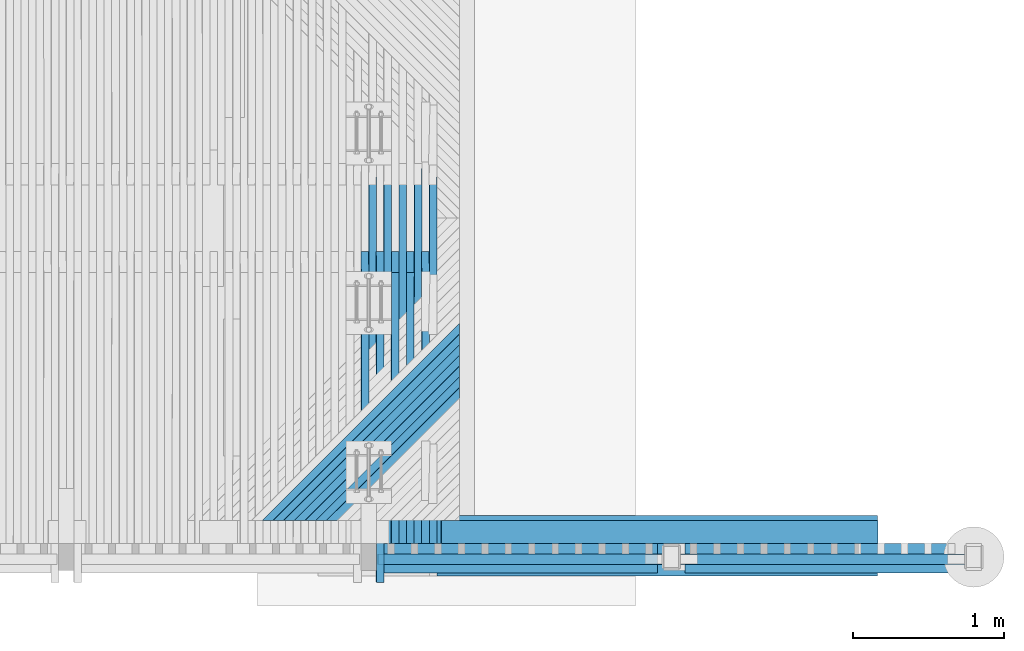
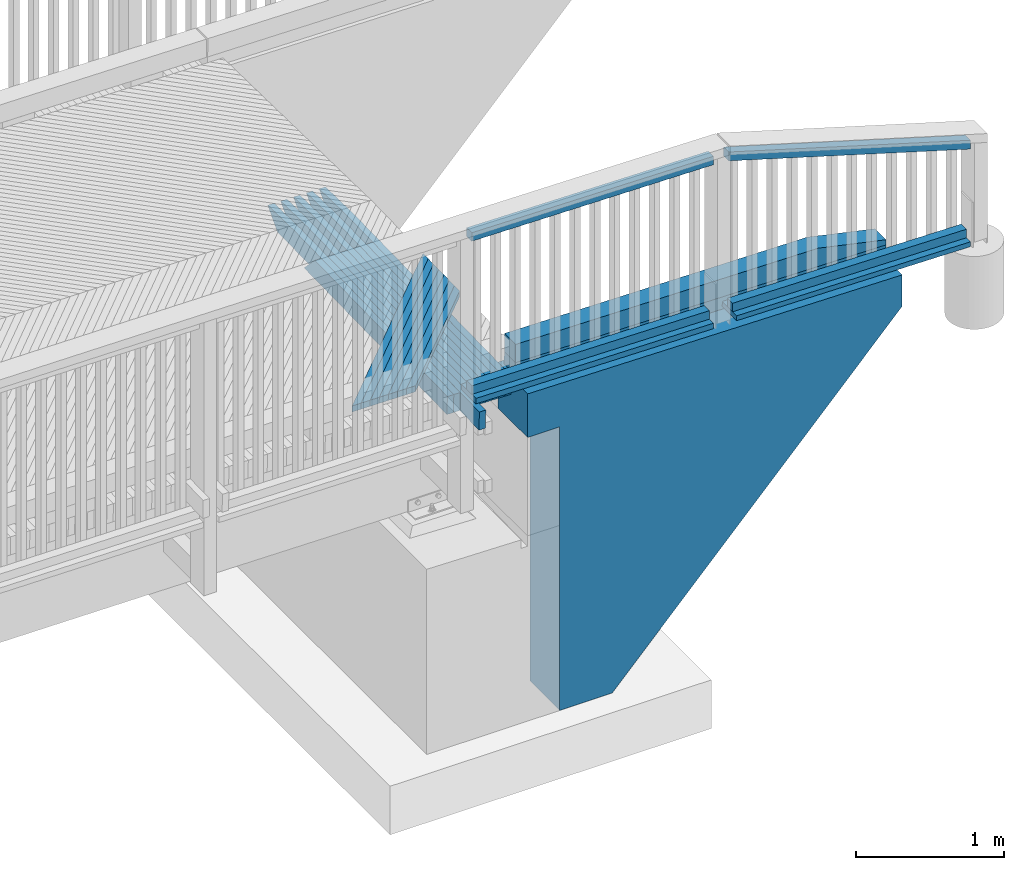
# One storey, part 44 of 52: 26 beams.
"""IFC2X3 building model written with IfcOpenShell, lengths in millimetres."""

from ifc_helpers import new_model, si_unit, frame, origin_with_axes, place, context, subcontext, project, spatial, faceted_brep, material, type_object, element, save


model = new_model("IFC2X3")

# Units and contexts
model_context = context("Model", 3, precision=1e-05, world=origin_with_axes())
body_context = subcontext(model_context, "Body", "Model", "MODEL_VIEW")
ifc_project = project(units=[si_unit("LENGTHUNIT", "METRE", prefix="MILLI"), si_unit("AREAUNIT", "SQUARE_METRE"), si_unit("VOLUMEUNIT", "CUBIC_METRE"), si_unit("MASSUNIT", "GRAM", prefix="KILO"), si_unit("TIMEUNIT", "SECOND"), si_unit("PLANEANGLEUNIT", "RADIAN"), si_unit("SOLIDANGLEUNIT", "STERADIAN"), si_unit("THERMODYNAMICTEMPERATUREUNIT", "DEGREE_CELSIUS"), si_unit("LUMINOUSINTENSITYUNIT", "LUMEN")], contexts=[model_context])

# Site, building, storey
site_placement = place(None, origin_with_axes())
site = spatial("IfcSite", under=ifc_project, at=site_placement, Name="Undefined", CompositionType="ELEMENT")
building_placement = place(site_placement, origin_with_axes())
building = spatial("IfcBuilding", under=site, at=building_placement, Name="Undefined", CompositionType="ELEMENT")
storey_placement = place(building_placement, origin_with_axes())
storey = spatial("IfcBuildingStorey", under=building, at=storey_placement, Name="Undefined", CompositionType="ELEMENT", Elevation=0.0)

# Beams
ifc_material_1 = material(Name="TIMBER/Timber_Undefined")
beam_type_1 = type_object("IfcBeamType", Name="150*100", PredefinedType="NOTDEFINED")
beam_1_placement = place(storey_placement, frame((19364.0305880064, 289.999999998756, 3118.6757290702), z_axis=(0.0, -1.0, 0.0), x_axis=(-0.999904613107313, 0.0, 0.0138117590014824)))
element("IfcBeam", 1, at=beam_1_placement, inside=storey, type_object=beam_type_1, material=ifc_material_1, Name="TÖRMÄYSJOHDE", ObjectType="150*100", context=body_context, shape_type="Brep", body=[
    faceted_brep([(-3.63797880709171e-12, 50.0, -75.0), (-3.63797880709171e-12, 50.0, 75.0), (2885.27521749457, 50.0, 75.0), (2885.27521749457, 50.0, -75.0), (0.0, -49.9999999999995, 75.0), (2885.27521749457, -49.9999999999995, 75.0), (0.0, -49.9999999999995, -75.0), (2885.27521749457, -49.9999999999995, -75.0)], [[[0, 1, 2, 3]], [[1, 4, 5, 2]], [[4, 6, 7, 5]], [[6, 0, 3, 7]], [[5, 7, 3, 2]], [[6, 4, 1, 0]]]),
])
beam_type_2 = type_object("IfcBeamType", Name="150*150", PredefinedType="NOTDEFINED")
beam_2_placement = place(storey_placement, frame((19366.0358819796, 289.999999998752, 3243.66334439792), z_axis=(0.0, -1.0, 0.0), x_axis=(-0.999904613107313, 0.0, 0.0138117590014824)))
element("IfcBeam", 2, at=beam_2_placement, inside=storey, type_object=beam_type_2, material=ifc_material_1, Name="TÖRMÄYSJOHDE", ObjectType="150*150", context=body_context, shape_type="Brep", body=[
    faceted_brep([(2885.27521749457, -74.9999999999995, 75.0), (2885.27521749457, -74.9999999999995, -75.0), (2885.27521749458, 75.0, -75.0), (2885.27521749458, 75.0, 75.0), (3.63797880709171e-12, 75.0000000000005, -75.0), (3.63797880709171e-12, 75.0000000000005, 75.0), (3.63797880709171e-12, 33.1222400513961, -75.0), (3.63797880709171e-12, 33.1222400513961, 75.0), (529.511118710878, -75.0, 75.0), (529.511118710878, -75.0, -75.0)], [[[0, 1, 2, 3]], [[4, 5, 3, 2]], [[5, 4, 6, 7]], [[0, 3, 5, 7, 8]], [[1, 0, 8, 9]], [[4, 2, 1, 9, 6]], [[8, 7, 6, 9]]]),
])
ifc_material_2 = material(Name="CONCRETE/Concrete_Undefined")
beam_type_3 = type_object("IfcBeamType", Name="2800*400", PredefinedType="NOTDEFINED")
beam_3_placement = place(storey_placement, frame((16430.3400332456, 200.0, 1712.66804762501), z_axis=(0.0140428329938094, 0.0, 0.999901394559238), x_axis=(0.999901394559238, 0.0, -0.0140428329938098)))
element("IfcBeam", 3, at=beam_3_placement, inside=storey, type_object=beam_type_3, material=ifc_material_2, Name="SIIPIMUURI", ObjectType="2800*400", context=body_context, shape_type="Brep", body=[
    faceted_brep([(5.63100911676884e-07, 200.0, 1400.0), (0.280884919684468, -200.000000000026, 1380.0), (2915.56834818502, -200.0, 1380.0), (2915.28746382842, 200.0, 1400.0), (270.457242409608, 199.999999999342, -54.8754727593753), (270.457242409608, -200.0, -54.8754727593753), (255.29098277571, -200.0, 1025.01803336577), (255.29098277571, 199.999999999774, 1025.01803336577), (288.066954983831, 200.0, -1308.75182153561), (288.066954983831, -200.0, -1308.75182153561), (697.173583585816, 200.0, -1303.00623892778), (697.173583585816, -200.0, -1303.00623892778), (2919.22031514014, 200.0, 1119.96651154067), (2919.22031514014, -200.0, 1119.96651154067), (5.31563413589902, -200.0, 1021.50732511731), (5.31563413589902, 199.999999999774, 1021.50732511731)], [[[0, 1, 2, 3]], [[4, 5, 6, 7]], [[8, 9, 5, 4]], [[10, 11, 9, 8]], [[12, 13, 11, 10]], [[13, 12, 3, 2]], [[14, 6, 5, 9, 11, 13, 2, 1]], [[7, 6, 14, 15]], [[3, 12, 10, 8, 4, 7, 15, 0]], [[15, 14, 1, 0]]]),
])
beam_type_4 = type_object("IfcBeamType", Name="70*70", PredefinedType="NOTDEFINED")
beam_4_placement = place(storey_placement, frame((19930.4049244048, 110.009954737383, 3879.53617466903), z_axis=(0.0, -1.0, 0.0), x_axis=(-0.958203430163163, 0.0, 0.286087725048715)))
element("IfcBeam", 4, at=beam_4_placement, inside=storey, type_object=beam_type_4, material=ifc_material_1, Name="BEAM", ObjectType="70*70", context=body_context, shape_type="Brep", body=[
    faceted_brep([(-20.4634471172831, 34.9999999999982, -35.0), (-20.4634471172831, 34.9999999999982, 35.0), (1941.54163533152, 34.9999999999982, 35.0), (1941.54163533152, 34.9999999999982, -35.0), (0.436228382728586, -35.0000000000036, 35.0), (1962.44131083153, -35.0000000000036, 35.0), (0.436228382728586, -35.0000000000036, -35.0), (1962.44131083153, -35.0000000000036, -35.0)], [[[0, 1, 2, 3]], [[1, 4, 5, 2]], [[4, 6, 7, 5]], [[6, 0, 3, 7]], [[5, 7, 3, 2]], [[6, 4, 1, 0]]]),
])
beam_5_placement = place(storey_placement, frame((19909.4703719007, 110.00997004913, 3156.34116342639), z_axis=(0.0, -1.0, 0.0), x_axis=(-0.999883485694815, 0.0, 0.0152648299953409)))
element("IfcBeam", 5, at=beam_5_placement, inside=storey, type_object=beam_type_4, material=ifc_material_1, Name="BEAM", ObjectType="70*70", context=body_context, shape_type="Brep", body=[
    faceted_brep([(-3.63797880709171e-12, 35.0000000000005, -35.0), (-3.63797880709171e-12, 35.0000000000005, 35.0), (1820.22135781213, 35.0, 35.0), (1820.22135781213, 35.0, -35.0), (-3.63797880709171e-12, -34.9999999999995, 35.0), (1820.22135781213, -34.9999999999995, 35.0), (-3.63797880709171e-12, -34.9999999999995, -35.0), (1820.22135781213, -34.9999999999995, -35.0)], [[[0, 1, 2, 3]], [[1, 4, 5, 2]], [[4, 6, 7, 5]], [[6, 0, 3, 7]], [[5, 7, 3, 2]], [[6, 4, 1, 0]]]),
])
beam_6_placement = place(storey_placement, frame((17909.4703719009, 110.00997004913, 3186.87116342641), z_axis=(0.0, -1.0, 0.0), x_axis=(-0.999883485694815, 0.0, 0.0152648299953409)))
element("IfcBeam", 6, at=beam_6_placement, inside=storey, type_object=beam_type_4, material=ifc_material_1, Name="BEAM", ObjectType="70*70", context=body_context, shape_type="Brep", body=[
    faceted_brep([(-3.63797880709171e-12, 35.0000000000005, -35.0), (-3.63797880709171e-12, 35.0000000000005, 35.0), (1850.22135781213, 34.9999999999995, 35.0), (1850.22135781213, 34.9999999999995, -35.0), (-3.63797880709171e-12, -34.9999999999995, 35.0), (1850.22135781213, -35.0, 35.0), (-3.63797880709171e-12, -34.9999999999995, -35.0), (1850.22135781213, -35.0, -35.0)], [[[0, 1, 2, 3]], [[1, 4, 5, 2]], [[4, 6, 7, 5]], [[6, 0, 3, 7]], [[5, 7, 3, 2]], [[6, 4, 1, 0]]]),
])
beam_7_placement = place(storey_placement, frame((17939.4668764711, 110.009970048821, 4446.41321852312), z_axis=(0.0, -1.0, 0.0), x_axis=(-0.999883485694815, 0.0, 0.0152648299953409)))
element("IfcBeam", 7, at=beam_7_placement, inside=storey, type_object=beam_type_4, material=ifc_material_1, Name="BEAM", ObjectType="70*70", context=body_context, shape_type="Brep", body=[
    faceted_brep([(-3.63797880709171e-12, 35.0000000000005, -35.0), (-3.63797880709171e-12, 35.0000000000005, 35.0), (1880.22135781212, 35.0000000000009, 35.0), (1880.22135781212, 35.0000000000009, -35.0), (-3.63797880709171e-12, -34.9999999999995, 35.0), (1880.22135781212, -35.0, 35.0), (-3.63797880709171e-12, -34.9999999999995, -35.0), (1880.22135781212, -35.0, -35.0)], [[[0, 1, 2, 3]], [[1, 4, 5, 2]], [[4, 6, 7, 5]], [[6, 0, 3, 7]], [[5, 7, 3, 2]], [[6, 4, 1, 0]]]),
])
beam_type_5 = type_object("IfcBeamType", Name="195*40", PredefinedType="NOTDEFINED")
beam_8_placement = place(storey_placement, frame((19909.6993443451, 117.50997004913, 3101.33941571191), z_axis=(0.0, -1.0, 0.0), x_axis=(-0.999883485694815, 0.0, 0.0152648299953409)))
element("IfcBeam", 8, at=beam_8_placement, inside=storey, type_object=beam_type_5, material=ifc_material_1, Name="BEAM", ObjectType="195*40", context=body_context, shape_type="Brep", body=[
    faceted_brep([(0.0, 20.0, -97.5), (0.0, 20.0, 97.5), (1820.22135781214, 20.0, 97.5), (1820.22135781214, 20.0, -97.5), (3.63797880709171e-12, -20.0, 97.5), (1820.22135781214, -20.0, 97.5), (3.63797880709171e-12, -20.0, -97.5), (1820.22135781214, -20.0, -97.5)], [[[0, 1, 2, 3]], [[1, 4, 5, 2]], [[4, 6, 7, 5]], [[6, 0, 3, 7]], [[5, 7, 3, 2]], [[6, 4, 1, 0]]]),
])
beam_type_6 = type_object("IfcBeamType", Name="50*50", PredefinedType="NOTDEFINED")
beam_9_placement = place(storey_placement, frame((17753.8756532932, 2364.50010032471, 3157.11296064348), z_axis=(0.706813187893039, -0.706981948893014, -0.0243236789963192), x_axis=(-0.707253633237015, -0.706948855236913, -0.0039515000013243)))
element("IfcBeam", 9, at=beam_9_placement, inside=storey, type_object=beam_type_6, material=ifc_material_1, Name="BEAM", ObjectType="50*50", context=body_context, shape_type="Brep", body=[
    faceted_brep([(2802.92643296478, -25.0, 25.0000000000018), (2852.92877373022, -25.0, -24.9999999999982), (2854.34301907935, 25.0, -24.9999999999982), (2804.3406783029, 25.0000000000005, 25.0000000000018), (1605.99425901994, 25.0, -25.0000000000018), (1655.96312129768, 25.0, 24.9999999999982), (1656.98128205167, -25.0, 25.0), (1607.01241977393, -25.0, -25.0)], [[[0, 1, 2, 3]], [[3, 2, 4, 5]], [[0, 3, 5, 6]], [[1, 0, 6, 7]], [[2, 1, 7, 4]], [[6, 5, 4, 7]]]),
])
beam_10_placement = place(storey_placement, frame((17683.1606331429, 2364.50010032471, 3158.25450418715), z_axis=(0.706816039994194, -0.706981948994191, -0.0242406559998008), x_axis=(-0.707253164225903, -0.706948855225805, -0.00403457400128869)))
element("IfcBeam", 10, at=beam_10_placement, inside=storey, type_object=beam_type_6, material=ifc_material_1, Name="BEAM", ObjectType="50*50", context=body_context, shape_type="Brep", body=[
    faceted_brep([(2802.92643296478, -25.0, 25.0000000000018), (2852.92877373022, -25.0, -24.9999999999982), (2854.34301907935, 25.0, -24.9999999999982), (2804.3406783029, 25.0000000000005, 25.0000000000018), (1506.01393205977, 24.9999999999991, -25.0), (1555.98302910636, 24.9999999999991, 25.0000000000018), (1556.99288906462, -25.0000000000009, 24.9999999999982), (1507.02379201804, -25.0000000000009, -25.0)], [[[0, 1, 2, 3]], [[3, 2, 4, 5]], [[0, 3, 5, 6]], [[1, 0, 6, 7]], [[2, 1, 7, 4]], [[6, 5, 4, 7]]]),
])
beam_11_placement = place(storey_placement, frame((17612.4454793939, 2364.50010032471, 3159.38774149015), z_axis=(0.706818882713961, -0.706981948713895, -0.0241576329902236), x_axis=(-0.707252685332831, -0.706948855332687, -0.00411764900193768)))
element("IfcBeam", 11, at=beam_11_placement, inside=storey, type_object=beam_type_6, material=ifc_material_1, Name="BEAM", ObjectType="50*50", context=body_context, shape_type="Brep", body=[
    faceted_brep([(2802.92643296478, -25.0, 25.0000000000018), (2852.92877373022, -25.0, -24.9999999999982), (2854.34301907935, 25.0, -24.9999999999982), (2804.3406783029, 25.0000000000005, 25.0000000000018), (1406.03330360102, 25.0000000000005, -25.0), (1456.00263545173, 25.0, 25.0000000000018), (1457.0041945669, -25.0, 25.0000000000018), (1407.03486271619, -25.0, -25.0)], [[[0, 1, 2, 3]], [[3, 2, 4, 5]], [[0, 3, 5, 6]], [[1, 0, 6, 7]], [[2, 1, 7, 4]], [[6, 5, 4, 7]]]),
])
beam_12_placement = place(storey_placement, frame((17541.730193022, 2364.50010032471, 3160.51267253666), z_axis=(0.706821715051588, -0.706981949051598, -0.0240746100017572), x_axis=(-0.707252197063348, -0.706948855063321, -0.00420072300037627)))
element("IfcBeam", 12, at=beam_12_placement, inside=storey, type_object=beam_type_6, material=ifc_material_1, Name="BEAM", ObjectType="50*50", context=body_context, shape_type="Brep", body=[
    faceted_brep([(2802.92643296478, -25.0, 25.0000000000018), (2852.92877373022, -25.0, -24.9999999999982), (2854.34301907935, 25.0, -24.9999999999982), (2804.3406783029, 25.0000000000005, 25.0000000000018), (1306.05236988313, 25.0000000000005, -24.9999999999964), (1356.02193646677, 24.9999999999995, 25.0000000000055), (1357.01519479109, -25.0000000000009, 25.0000000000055), (1307.04562820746, -24.9999999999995, -24.9999999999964)], [[[0, 1, 2, 3]], [[3, 2, 4, 5]], [[0, 3, 5, 6]], [[1, 0, 6, 7]], [[2, 1, 7, 4]], [[6, 5, 4, 7]]]),
])
beam_13_placement = place(storey_placement, frame((17471.0147750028, 2364.50010032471, 3161.6292973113), z_axis=(0.706824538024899, -0.706981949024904, -0.0239915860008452), x_axis=(-0.707251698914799, -0.706948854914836, -0.004283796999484)))
element("IfcBeam", 13, at=beam_13_placement, inside=storey, type_object=beam_type_6, material=ifc_material_1, Name="BEAM", ObjectType="50*50", context=body_context, shape_type="Brep", body=[
    faceted_brep([(2802.92643296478, -25.0, 25.0000000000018), (2852.92877373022, -25.0, -24.9999999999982), (2854.34301907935, 25.0, -24.9999999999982), (2804.3406783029, 25.0000000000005, 25.0000000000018), (1206.07112918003, 24.9999999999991, -25.0000000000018), (1256.04093053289, 25.0, 24.9999999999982), (1257.02588801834, -25.0000000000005, 24.9999999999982), (1207.05608666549, -25.0000000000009, -25.0)], [[[0, 1, 2, 3]], [[3, 2, 4, 5]], [[0, 3, 5, 6]], [[1, 0, 6, 7]], [[2, 1, 7, 4]], [[6, 5, 4, 7]]]),
])
beam_14_placement = place(storey_placement, frame((17400.2992263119, 2364.50010032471, 3162.73761579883), z_axis=(0.706827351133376, -0.706981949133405, -0.0239085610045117), x_axis=(-0.707251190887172, -0.70694885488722, -0.00436687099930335)))
element("IfcBeam", 14, at=beam_14_placement, inside=storey, type_object=beam_type_6, material=ifc_material_1, Name="BEAM", ObjectType="50*50", context=body_context, shape_type="Brep", body=[
    faceted_brep([(2802.92643296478, -25.0, 25.0000000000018), (2852.92877373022, -25.0, -24.9999999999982), (2854.34301907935, 25.0, -24.9999999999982), (2804.3406783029, 25.0000000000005, 25.0000000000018), (1106.08957869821, 24.9999999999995, -25.0000000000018), (1156.05961482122, 25.0, 24.9999999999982), (1157.03627142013, -25.0, 24.9999999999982), (1107.06623529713, -25.0, -25.0)], [[[0, 1, 2, 3]], [[3, 2, 4, 5]], [[0, 3, 5, 6]], [[1, 0, 6, 7]], [[2, 1, 7, 4]], [[6, 5, 4, 7]]]),
])
beam_15_placement = place(storey_placement, frame((17329.583547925, 2364.50010032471, 3163.83762798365), z_axis=(0.706830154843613, -0.70698194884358, -0.0238255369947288), x_axis=(-0.707250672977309, -0.706948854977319, -0.00444994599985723)))
element("IfcBeam", 15, at=beam_15_placement, inside=storey, type_object=beam_type_6, material=ifc_material_1, Name="BEAM", ObjectType="50*50", context=body_context, shape_type="Brep", body=[
    faceted_brep([(2802.92643296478, -25.0, 25.0000000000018), (2852.92877373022, -25.0, -24.9999999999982), (2854.34301907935, 25.0, -24.9999999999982), (2804.3406783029, 25.0000000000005, 25.0000000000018), (1006.10771559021, 24.9999999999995, -25.0000000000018), (1056.07798651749, 24.9999999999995, 25.0), (1057.04634223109, -25.0000000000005, 24.9999999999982), (1007.0760713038, -25.0000000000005, -25.0)], [[[0, 1, 2, 3]], [[3, 2, 4, 5]], [[0, 3, 5, 6]], [[1, 0, 6, 7]], [[2, 1, 7, 4]], [[6, 5, 4, 7]]]),
])
beam_type_7 = type_object("IfcBeamType", Name="195*45", PredefinedType="NOTDEFINED")
beam_16_placement = place(storey_placement, frame((17909.6611822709, 117.509970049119, 3129.36970699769), z_axis=(0.0, -1.0, 0.0), x_axis=(-0.999883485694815, 0.0, 0.0152648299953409)))
element("IfcBeam", 16, at=beam_16_placement, inside=storey, type_object=beam_type_7, material=ifc_material_1, Name="BEAM", ObjectType="195*45", context=body_context, shape_type="Brep", body=[
    faceted_brep([(3.63797880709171e-12, 22.4999999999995, -97.5), (3.63797880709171e-12, 22.4999999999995, 97.5), (1850.22135781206, 22.5, 97.5), (1850.22135781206, 22.5, -97.5), (1.81898940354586e-12, -22.5000000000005, 97.5), (1850.22135781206, -22.5, 97.5), (1.81898940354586e-12, -22.5000000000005, -97.5), (1850.22135781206, -22.5, -97.5)], [[[0, 1, 2, 3]], [[1, 4, 5, 2]], [[4, 6, 7, 5]], [[6, 0, 3, 7]], [[5, 7, 3, 2]], [[6, 4, 1, 0]]]),
])
beam_type_8 = type_object("IfcBeamType", Name="150*50", PredefinedType="NOTDEFINED")
beam_17_placement = place(storey_placement, frame((16374.1835977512, 216.50460761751, 3034.87917629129), z_axis=(0.013832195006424, -0.019996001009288, 0.999704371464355), x_axis=(0.000276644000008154, 0.999800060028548, 0.0199940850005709)))
element("IfcBeam", 17, at=beam_17_placement, inside=storey, type_object=beam_type_8, material=ifc_material_1, Name="BEAM", ObjectType="150*50", context=body_context, shape_type="Brep", body=[
    faceted_brep([(-1.67788130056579e-07, -24.9999999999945, -74.9999999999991), (1.67786311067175e-07, -24.9999999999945, 75.0000000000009), (1.67786311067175e-07, 25.0000000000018, 75.0), (-1.67787220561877e-07, 25.0000000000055, -75.0), (1789.96936433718, -25.0000000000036, 74.9999999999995), (1789.96936408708, 24.9999999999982, 75.0000000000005), (1928.42646328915, 24.9999999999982, -74.9999999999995), (1928.42646353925, -25.0, -75.0)], [[[0, 1, 2, 3]], [[2, 1, 4, 5]], [[3, 2, 5, 6]], [[0, 3, 6, 7]], [[1, 0, 7, 4]], [[6, 5, 4, 7]]]),
])
beam_18_placement = place(storey_placement, frame((16424.1987277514, 216.504607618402, 3034.17884260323), z_axis=(0.0139982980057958, -0.0199960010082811, 0.999702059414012), x_axis=(0.000279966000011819, 0.999800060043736, 0.0199940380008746)))
element("IfcBeam", 18, at=beam_18_placement, inside=storey, type_object=beam_type_8, material=ifc_material_1, Name="BEAM", ObjectType="150*50", context=body_context, shape_type="Brep", body=[
    faceted_brep([(-1.67788130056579e-07, -24.9999999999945, -74.9999999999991), (1.67786311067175e-07, -24.9999999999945, 75.0000000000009), (1.67786311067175e-07, 25.0000000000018, 75.0), (-1.67787220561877e-07, 25.0000000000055, -75.0), (2375.00494422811, 25.0000000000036, -74.9999999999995), (2375.0049444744, -24.9999999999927, -74.9999999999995), (2510.5924871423, -24.9999999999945, 60.5875430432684), (2150.42514405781, -24.9999999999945, 75.0000000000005), (2150.42515052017, 25.0000000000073, 75.0), (2510.59248715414, 25.0000000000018, 60.5875433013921)], [[[0, 1, 2, 3]], [[0, 3, 4, 5]], [[1, 0, 5, 6, 7]], [[2, 1, 7, 8]], [[4, 3, 2, 8, 9]], [[5, 4, 9, 6]], [[6, 9, 8, 7]]]),
])
beam_19_placement = place(storey_placement, frame((16274.1731307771, 216.50460761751, 3036.26228302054), z_axis=(0.0136660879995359, -0.019996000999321, 0.999706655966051), x_axis=(0.000273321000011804, 0.999800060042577, 0.0199941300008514)))
element("IfcBeam", 19, at=beam_19_placement, inside=storey, type_object=beam_type_8, material=ifc_material_1, Name="BEAM", ObjectType="150*50", context=body_context, shape_type="Brep", body=[
    faceted_brep([(-1.67788130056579e-07, -24.9999999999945, -74.9999999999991), (1.67786311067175e-07, -24.9999999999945, 75.0000000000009), (1.67786311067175e-07, 25.0000000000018, 75.0), (-1.67787220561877e-07, 25.0000000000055, -75.0), (1789.96936433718, -25.0000000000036, 74.9999999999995), (1789.96936408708, 24.9999999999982, 75.0000000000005), (1928.42646328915, 24.9999999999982, -74.9999999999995), (1928.42646353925, -25.0, -75.0)], [[[0, 1, 2, 3]], [[2, 1, 4, 5]], [[3, 2, 5, 6]], [[0, 3, 6, 7]], [[1, 0, 7, 4]], [[6, 5, 4, 7]]]),
])
beam_20_placement = place(storey_placement, frame((16324.1883764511, 216.504607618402, 3035.57025962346), z_axis=(0.013832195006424, -0.019996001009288, 0.999704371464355), x_axis=(0.000276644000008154, 0.999800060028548, 0.0199940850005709)))
element("IfcBeam", 20, at=beam_20_placement, inside=storey, type_object=beam_type_8, material=ifc_material_1, Name="BEAM", ObjectType="150*50", context=body_context, shape_type="Brep", body=[
    faceted_brep([(-1.67788130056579e-07, -24.9999999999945, -74.9999999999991), (1.67786311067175e-07, -24.9999999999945, 75.0000000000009), (1.67786311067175e-07, 25.0000000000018, 75.0), (-1.67787220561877e-07, 25.0000000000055, -75.0), (2375.00494422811, 25.0000000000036, -74.9999999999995), (2375.0049444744, -24.9999999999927, -74.9999999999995), (2510.5924871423, -24.9999999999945, 60.5875430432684), (2150.42514405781, -24.9999999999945, 75.0000000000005), (2150.42515052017, 25.0000000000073, 75.0), (2510.59248715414, 25.0000000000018, 60.5875433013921)], [[[0, 1, 2, 3]], [[0, 3, 4, 5]], [[1, 0, 5, 6, 7]], [[2, 1, 7, 8]], [[4, 3, 2, 8, 9]], [[5, 4, 9, 6]], [[6, 9, 8, 7]]]),
])
beam_21_placement = place(storey_placement, frame((16174.162435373, 216.50460761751, 3037.62877245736), z_axis=(0.0134999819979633, -0.0199960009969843, 0.999708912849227), x_axis=(0.000269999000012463, 0.999800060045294, 0.0199941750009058)))
element("IfcBeam", 21, at=beam_21_placement, inside=storey, type_object=beam_type_8, material=ifc_material_1, Name="BEAM", ObjectType="150*50", context=body_context, shape_type="Brep", body=[
    faceted_brep([(-1.67788130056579e-07, -24.9999999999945, -74.9999999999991), (1.67786311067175e-07, -24.9999999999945, 75.0000000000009), (1.67786311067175e-07, 25.0000000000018, 75.0), (-1.67787220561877e-07, 25.0000000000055, -75.0), (1789.96936433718, -25.0000000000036, 74.9999999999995), (1789.96936408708, 24.9999999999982, 75.0000000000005), (1928.42646328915, 24.9999999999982, -74.9999999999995), (1928.42646353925, -25.0, -75.0)], [[[0, 1, 2, 3]], [[2, 1, 4, 5]], [[3, 2, 5, 6]], [[0, 3, 6, 7]], [[1, 0, 7, 4]], [[6, 5, 4, 7]]]),
])
for number, where, z_axis, x_axis, name in (
    (22, (16224.1777953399, 216.504607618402, 3036.94505937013), (0.0136660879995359, -0.019996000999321, 0.999706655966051), (0.000273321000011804, 0.999800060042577, 0.0199941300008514), "BEAM"),
    (23, (16124.166987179, 216.504607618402, 3038.30324180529), (0.0134999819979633, -0.0199960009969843, 0.999708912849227), (0.000269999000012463, 0.999800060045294, 0.0199941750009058), "BEAM"),
):
    element("IfcBeam", number, at=place(storey_placement, frame(where, z_axis=z_axis, x_axis=x_axis)), inside=storey, type_object=beam_type_8, material=ifc_material_1, Name=name, ObjectType="150*50", context=body_context, shape_type="Brep", body=[
        faceted_brep([(-1.67788130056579e-07, -24.9999999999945, -74.9999999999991), (1.67786311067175e-07, -24.9999999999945, 75.0000000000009), (1.67786311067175e-07, 25.0000000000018, 75.0), (-1.67787220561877e-07, 25.0000000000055, -75.0), (2375.00494422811, 25.0000000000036, -74.9999999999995), (2375.0049444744, -24.9999999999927, -74.9999999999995), (2510.5924871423, -24.9999999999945, 60.5875430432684), (2150.42514405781, -24.9999999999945, 75.0000000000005), (2150.42515052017, 25.0000000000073, 75.0), (2510.59248715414, 25.0000000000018, 60.5875433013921)], [[[0, 1, 2, 3]], [[0, 3, 4, 5]], [[1, 0, 5, 6, 7]], [[2, 1, 7, 8]], [[4, 3, 2, 8, 9]], [[5, 4, 9, 6]], [[6, 9, 8, 7]]]),
    ])
beam_22_placement = place(storey_placement, frame((15974.1403703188, 216.50460761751, 3040.31189930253), z_axis=(0.0131677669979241, -0.0199960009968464, 0.999713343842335), x_axis=(0.00026335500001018, 0.999800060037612, 0.0199942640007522)))
element("IfcBeam", 24, at=beam_22_placement, inside=storey, type_object=beam_type_8, material=ifc_material_1, Name="BEAM", ObjectType="150*50", context=body_context, shape_type="Brep", body=[
    faceted_brep([(-1.67788130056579e-07, -24.9999999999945, -74.9999999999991), (1.67786311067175e-07, -24.9999999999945, 75.0000000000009), (1.67786311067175e-07, 25.0000000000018, 75.0), (-1.67787220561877e-07, 25.0000000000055, -75.0), (1789.96936433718, -25.0000000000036, 74.9999999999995), (1789.96936408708, 24.9999999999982, 75.0000000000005), (1928.42646328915, 24.9999999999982, -74.9999999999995), (1928.42646353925, -25.0, -75.0)], [[[0, 1, 2, 3]], [[2, 1, 4, 5]], [[3, 2, 5, 6]], [[0, 3, 6, 7]], [[1, 0, 7, 4]], [[6, 5, 4, 7]]]),
])
beam_23_placement = place(storey_placement, frame((16024.1559547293, 216.504607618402, 3039.64480689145), z_axis=(0.0133338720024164, -0.0199960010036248, 0.999711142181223), x_axis=(0.000266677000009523, 0.999800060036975, 0.0199942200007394)))
element("IfcBeam", 25, at=beam_23_placement, inside=storey, type_object=beam_type_8, material=ifc_material_1, Name="BEAM", ObjectType="150*50", context=body_context, shape_type="Brep", body=[
    faceted_brep([(-1.67788130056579e-07, -24.9999999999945, -74.9999999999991), (1.67786311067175e-07, -24.9999999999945, 75.0000000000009), (1.67786311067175e-07, 25.0000000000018, 75.0), (-1.67787220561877e-07, 25.0000000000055, -75.0), (2375.00494422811, 25.0000000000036, -74.9999999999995), (2375.0049444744, -24.9999999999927, -74.9999999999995), (2510.5924871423, -24.9999999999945, 60.5875430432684), (2150.42514405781, -24.9999999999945, 75.0000000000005), (2150.42515052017, 25.0000000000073, 75.0), (2510.59248715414, 25.0000000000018, 60.5875433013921)], [[[0, 1, 2, 3]], [[0, 3, 4, 5]], [[1, 0, 5, 6, 7]], [[2, 1, 7, 8]], [[4, 3, 2, 8, 9]], [[5, 4, 9, 6]], [[6, 9, 8, 7]]]),
])
beam_24_placement = place(storey_placement, frame((16074.4430800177, -41.4438078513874, 3033.82076774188), z_axis=(0.0133324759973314, -0.0199960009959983, 0.999711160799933), x_axis=(0.000266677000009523, 0.999800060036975, 0.0199942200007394)))
element("IfcBeam", 26, at=beam_24_placement, inside=storey, type_object=beam_type_8, material=ifc_material_1, Name="BEAM", ObjectType="150*50", context=body_context, shape_type="Brep", body=[
    faceted_brep([(-1.67788130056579e-07, -24.9999999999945, -74.9999999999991), (1.67786311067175e-07, -24.9999999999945, 75.0000000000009), (1.67786311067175e-07, 25.0000000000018, 75.0), (-1.67787220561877e-07, 25.0000000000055, -75.0), (2047.96935255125, -25.0, 75.0), (2047.9693678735, 25.0, 75.0), (2186.42646676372, 24.9999999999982, -75.0), (2186.42645144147, -25.0, -75.0)], [[[0, 1, 2, 3]], [[2, 1, 4, 5]], [[3, 2, 5, 6]], [[0, 3, 6, 7]], [[1, 0, 7, 4]], [[6, 5, 4, 7]]]),
])

save(model, "model.ifc")
